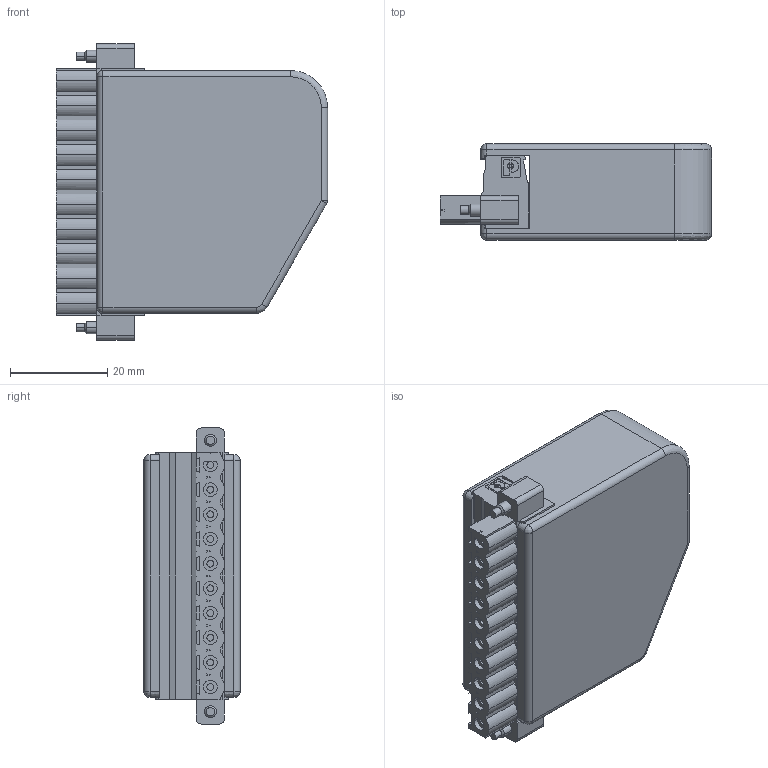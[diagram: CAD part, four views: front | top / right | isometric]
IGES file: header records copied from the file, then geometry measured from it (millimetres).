
Start section:  PTC IGES file: conn_crio_10_pos_cmbcn_tb.igs
Global section: file name: conn_crio_10_pos_cmbcn_tb.igs; native system: Pro/ENGINEER by Parametric Technology Corporation; preprocessor: 2006080; author: chrisj; organization: Unknown; date: 070126.101734; units: inch
Bounding box: 55.8 x 19.81 x 60.96 mm (x, y, z)
Surface area: 14268.6 mm2 (no closed solid volume)
Topology: 0 solids, 0 shells, 648 faces, 3208 edges, 3185 vertices
Faces by surface type: bspline 445, revolution 203
